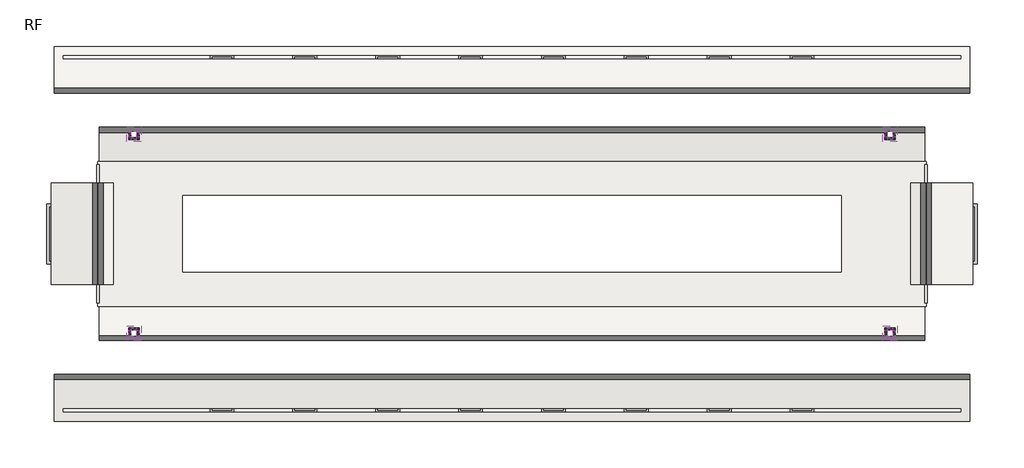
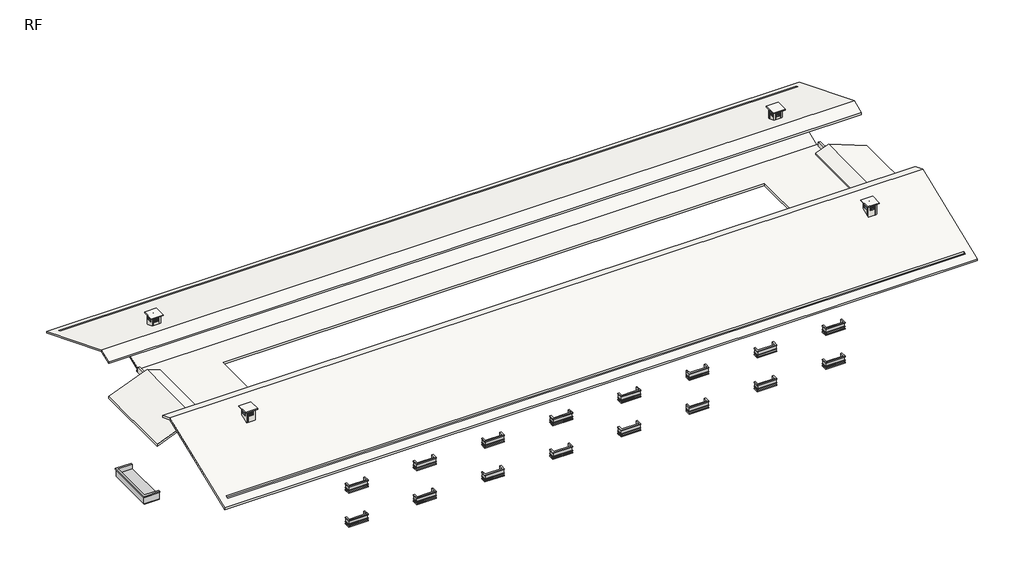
# One storey, incomplete: 34 proxies, 18 walls, 16 windows, 7 roofs, 4 slabs.
"""IFC4 building model written with IfcOpenShell, lengths in millimetres."""

from ifc_helpers import new_model, si_unit, frame, origin, place, context, project, spatial, polyline, outline, extrude, faceted_brep, transform, mapped, element, save
from components import generic_models_051adba6, generic_models_23763dcb, generic_models_85c76053, window_500_x_500mm_c674ac40, window_500_x_500mm_412bf19c

model = new_model("IFC4")

# Units and contexts
model_context = context("Model", 3, world=origin())
ifc_project = project(units=[si_unit("LENGTHUNIT", "METRE", prefix="MILLI")], contexts=[model_context])

# Site, building, storey
site = spatial("IfcSite", under=ifc_project)
building = spatial("IfcBuilding", under=site)
storey = spatial("IfcBuildingStorey", under=building, Name="RF", Elevation=12600.0)

# Proxies
placement = place(None, origin())
generic_models_shape = generic_models_051adba6(model_context)
element("IfcBuildingElementProxy", 1, Name="雨棚 : 雨棚", ObjectType="雨棚 : 雨棚", at=placement, inside=storey, context=model_context, shape_type="MappedRepresentation", body=[
    mapped(generic_models_shape, transform((-33.0000012, 16600.0, 4200.0), x_axis=(0.0, -1.0, 0.0), y_axis=(0.0, 0.0, 1.0), z_axis=(-1.0, 0.0, 0.0))),
])
element("IfcBuildingElementProxy", 2, Name="雨棚 : 雨棚", ObjectType="雨棚 : 雨棚", at=placement, inside=storey, context=model_context, shape_type="MappedRepresentation", body=[
    mapped(generic_models_shape, transform((86033.0000012, 16600.0, 4200.0), x_axis=(0.0, 1.0, 0.0), y_axis=(0.0, 0.0, 1.0), z_axis=(1.0, 0.0, 0.0))),
])
generic_models_2_shape = generic_models_23763dcb(model_context)
element("IfcBuildingElementProxy", 3, Name="花池 : 花池", ObjectType="花池 : 花池", at=placement, inside=storey, context=model_context, shape_type="MappedRepresentation", body=[
    mapped(generic_models_2_shape, transform((15000.0, 0.0, 4200.0), x_axis=(1.0, 0.0, 0.0), y_axis=(0.0, 0.0, 1.0), z_axis=(0.0, -1.0, 0.0))),
])
element("IfcBuildingElementProxy", 4, Name="花池 : 花池", ObjectType="花池 : 花池", at=placement, inside=storey, context=model_context, shape_type="MappedRepresentation", body=[
    mapped(generic_models_2_shape, transform((23000.0, 0.0, 4200.0), x_axis=(1.0, 0.0, 0.0), y_axis=(0.0, 0.0, 1.0), z_axis=(0.0, -1.0, 0.0))),
])
element("IfcBuildingElementProxy", 5, Name="花池 : 花池", ObjectType="花池 : 花池", at=placement, inside=storey, context=model_context, shape_type="MappedRepresentation", body=[
    mapped(generic_models_2_shape, transform((31000.0, 0.0, 4200.0), x_axis=(1.0, 0.0, 0.0), y_axis=(0.0, 0.0, 1.0), z_axis=(0.0, -1.0, 0.0))),
])
element("IfcBuildingElementProxy", 6, Name="花池 : 花池", ObjectType="花池 : 花池", at=placement, inside=storey, context=model_context, shape_type="MappedRepresentation", body=[
    mapped(generic_models_2_shape, transform((39000.0, 0.0, 4200.0), x_axis=(1.0, 0.0, 0.0), y_axis=(0.0, 0.0, 1.0), z_axis=(0.0, -1.0, 0.0))),
])
element("IfcBuildingElementProxy", 7, Name="花池 : 花池", ObjectType="花池 : 花池", at=placement, inside=storey, context=model_context, shape_type="MappedRepresentation", body=[
    mapped(generic_models_2_shape, transform((47000.0, 0.0, 4200.0), x_axis=(1.0, 0.0, 0.0), y_axis=(0.0, 0.0, 1.0), z_axis=(0.0, -1.0, 0.0))),
])
element("IfcBuildingElementProxy", 8, Name="花池 : 花池", ObjectType="花池 : 花池", at=placement, inside=storey, context=model_context, shape_type="MappedRepresentation", body=[
    mapped(generic_models_2_shape, transform((55000.0, 0.0, 4200.0), x_axis=(1.0, 0.0, 0.0), y_axis=(0.0, 0.0, 1.0), z_axis=(0.0, -1.0, 0.0))),
])
element("IfcBuildingElementProxy", 9, Name="花池 : 花池", ObjectType="花池 : 花池", at=placement, inside=storey, context=model_context, shape_type="MappedRepresentation", body=[
    mapped(generic_models_2_shape, transform((63000.0, 0.0, 4200.0), x_axis=(1.0, 0.0, 0.0), y_axis=(0.0, 0.0, 1.0), z_axis=(0.0, -1.0, 0.0))),
])
element("IfcBuildingElementProxy", 10, Name="花池 : 花池", ObjectType="花池 : 花池", at=placement, inside=storey, context=model_context, shape_type="MappedRepresentation", body=[
    mapped(generic_models_2_shape, transform((71000.0, 0.0, 4200.0), x_axis=(1.0, 0.0, 0.0), y_axis=(0.0, 0.0, 1.0), z_axis=(0.0, -1.0, 0.0))),
])
element("IfcBuildingElementProxy", 11, Name="花池 : 花池", ObjectType="花池 : 花池", at=placement, inside=storey, context=model_context, shape_type="MappedRepresentation", body=[
    mapped(generic_models_2_shape, transform((15000.0, 0.0, 8400.0), x_axis=(1.0, 0.0, 0.0), y_axis=(0.0, 0.0, 1.0), z_axis=(0.0, -1.0, 0.0))),
])
element("IfcBuildingElementProxy", 12, Name="花池 : 花池", ObjectType="花池 : 花池", at=placement, inside=storey, context=model_context, shape_type="MappedRepresentation", body=[
    mapped(generic_models_2_shape, transform((23000.0, 0.0, 8400.0), x_axis=(1.0, 0.0, 0.0), y_axis=(0.0, 0.0, 1.0), z_axis=(0.0, -1.0, 0.0))),
])
element("IfcBuildingElementProxy", 13, Name="花池 : 花池", ObjectType="花池 : 花池", at=placement, inside=storey, context=model_context, shape_type="MappedRepresentation", body=[
    mapped(generic_models_2_shape, transform((31000.0, 0.0, 8400.0), x_axis=(1.0, 0.0, 0.0), y_axis=(0.0, 0.0, 1.0), z_axis=(0.0, -1.0, 0.0))),
])
element("IfcBuildingElementProxy", 14, Name="花池 : 花池", ObjectType="花池 : 花池", at=placement, inside=storey, context=model_context, shape_type="MappedRepresentation", body=[
    mapped(generic_models_2_shape, transform((39000.0, 0.0, 8400.0), x_axis=(1.0, 0.0, 0.0), y_axis=(0.0, 0.0, 1.0), z_axis=(0.0, -1.0, 0.0))),
])
element("IfcBuildingElementProxy", 15, Name="花池 : 花池", ObjectType="花池 : 花池", at=placement, inside=storey, context=model_context, shape_type="MappedRepresentation", body=[
    mapped(generic_models_2_shape, transform((47000.0, 0.0, 8400.0), x_axis=(1.0, 0.0, 0.0), y_axis=(0.0, 0.0, 1.0), z_axis=(0.0, -1.0, 0.0))),
])
element("IfcBuildingElementProxy", 16, Name="花池 : 花池", ObjectType="花池 : 花池", at=placement, inside=storey, context=model_context, shape_type="MappedRepresentation", body=[
    mapped(generic_models_2_shape, transform((55000.0, 0.0, 8400.0), x_axis=(1.0, 0.0, 0.0), y_axis=(0.0, 0.0, 1.0), z_axis=(0.0, -1.0, 0.0))),
])
element("IfcBuildingElementProxy", 17, Name="花池 : 花池", ObjectType="花池 : 花池", at=placement, inside=storey, context=model_context, shape_type="MappedRepresentation", body=[
    mapped(generic_models_2_shape, transform((63000.0, 0.0, 8400.0), x_axis=(1.0, 0.0, 0.0), y_axis=(0.0, 0.0, 1.0), z_axis=(0.0, -1.0, 0.0))),
])
element("IfcBuildingElementProxy", 18, Name="花池 : 花池", ObjectType="花池 : 花池", at=placement, inside=storey, context=model_context, shape_type="MappedRepresentation", body=[
    mapped(generic_models_2_shape, transform((71000.0, 0.0, 8400.0), x_axis=(1.0, 0.0, 0.0), y_axis=(0.0, 0.0, 1.0), z_axis=(0.0, -1.0, 0.0))),
])
generic_models_3_shape = generic_models_85c76053(model_context)
element("IfcBuildingElementProxy", 19, Name="花池 : 花池", ObjectType="花池 : 花池", at=placement, inside=storey, context=model_context, shape_type="MappedRepresentation", body=[
    mapped(generic_models_3_shape, transform((15000.0, 33200.0, 4200.0), x_axis=(1.0, 0.0, 0.0), y_axis=(0.0, 0.0, -1.0), z_axis=(0.0, 1.0, 0.0))),
])
element("IfcBuildingElementProxy", 20, Name="花池 : 花池", ObjectType="花池 : 花池", at=placement, inside=storey, context=model_context, shape_type="MappedRepresentation", body=[
    mapped(generic_models_3_shape, transform((23000.0, 33200.0, 4200.0), x_axis=(1.0, 0.0, 0.0), y_axis=(0.0, 0.0, -1.0), z_axis=(0.0, 1.0, 0.0))),
])
element("IfcBuildingElementProxy", 21, Name="花池 : 花池", ObjectType="花池 : 花池", at=placement, inside=storey, context=model_context, shape_type="MappedRepresentation", body=[
    mapped(generic_models_3_shape, transform((31000.0, 33200.0, 4200.0), x_axis=(1.0, 0.0, 0.0), y_axis=(0.0, 0.0, -1.0), z_axis=(0.0, 1.0, 0.0))),
])
element("IfcBuildingElementProxy", 22, Name="花池 : 花池", ObjectType="花池 : 花池", at=placement, inside=storey, context=model_context, shape_type="MappedRepresentation", body=[
    mapped(generic_models_3_shape, transform((39000.0, 33200.0, 4200.0), x_axis=(1.0, 0.0, 0.0), y_axis=(0.0, 0.0, -1.0), z_axis=(0.0, 1.0, 0.0))),
])
element("IfcBuildingElementProxy", 23, Name="花池 : 花池", ObjectType="花池 : 花池", at=placement, inside=storey, context=model_context, shape_type="MappedRepresentation", body=[
    mapped(generic_models_3_shape, transform((47000.0, 33200.0, 4200.0), x_axis=(1.0, 0.0, 0.0), y_axis=(0.0, 0.0, -1.0), z_axis=(0.0, 1.0, 0.0))),
])
element("IfcBuildingElementProxy", 24, Name="花池 : 花池", ObjectType="花池 : 花池", at=placement, inside=storey, context=model_context, shape_type="MappedRepresentation", body=[
    mapped(generic_models_3_shape, transform((55000.0, 33200.0, 4200.0), x_axis=(1.0, 0.0, 0.0), y_axis=(0.0, 0.0, -1.0), z_axis=(0.0, 1.0, 0.0))),
])
element("IfcBuildingElementProxy", 25, Name="花池 : 花池", ObjectType="花池 : 花池", at=placement, inside=storey, context=model_context, shape_type="MappedRepresentation", body=[
    mapped(generic_models_3_shape, transform((63000.0, 33200.0, 4200.0), x_axis=(1.0, 0.0, 0.0), y_axis=(0.0, 0.0, -1.0), z_axis=(0.0, 1.0, 0.0))),
])
element("IfcBuildingElementProxy", 26, Name="花池 : 花池", ObjectType="花池 : 花池", at=placement, inside=storey, context=model_context, shape_type="MappedRepresentation", body=[
    mapped(generic_models_3_shape, transform((71000.0, 33200.0, 4200.0), x_axis=(1.0, 0.0, 0.0), y_axis=(0.0, 0.0, -1.0), z_axis=(0.0, 1.0, 0.0))),
])
element("IfcBuildingElementProxy", 27, Name="花池 : 花池", ObjectType="花池 : 花池", at=placement, inside=storey, context=model_context, shape_type="MappedRepresentation", body=[
    mapped(generic_models_3_shape, transform((15000.0, 33200.0, 8400.0), x_axis=(1.0, 0.0, 0.0), y_axis=(0.0, 0.0, -1.0), z_axis=(0.0, 1.0, 0.0))),
])
element("IfcBuildingElementProxy", 28, Name="花池 : 花池", ObjectType="花池 : 花池", at=placement, inside=storey, context=model_context, shape_type="MappedRepresentation", body=[
    mapped(generic_models_3_shape, transform((23000.0, 33200.0, 8400.0), x_axis=(1.0, 0.0, 0.0), y_axis=(0.0, 0.0, -1.0), z_axis=(0.0, 1.0, 0.0))),
])
element("IfcBuildingElementProxy", 29, Name="花池 : 花池", ObjectType="花池 : 花池", at=placement, inside=storey, context=model_context, shape_type="MappedRepresentation", body=[
    mapped(generic_models_3_shape, transform((31000.0, 33200.0, 8400.0), x_axis=(1.0, 0.0, 0.0), y_axis=(0.0, 0.0, -1.0), z_axis=(0.0, 1.0, 0.0))),
])
element("IfcBuildingElementProxy", 30, Name="花池 : 花池", ObjectType="花池 : 花池", at=placement, inside=storey, context=model_context, shape_type="MappedRepresentation", body=[
    mapped(generic_models_3_shape, transform((39000.0, 33200.0, 8400.0), x_axis=(1.0, 0.0, 0.0), y_axis=(0.0, 0.0, -1.0), z_axis=(0.0, 1.0, 0.0))),
])
element("IfcBuildingElementProxy", 31, Name="花池 : 花池", ObjectType="花池 : 花池", at=placement, inside=storey, context=model_context, shape_type="MappedRepresentation", body=[
    mapped(generic_models_3_shape, transform((47000.0, 33200.0, 8400.0), x_axis=(1.0, 0.0, 0.0), y_axis=(0.0, 0.0, -1.0), z_axis=(0.0, 1.0, 0.0))),
])
element("IfcBuildingElementProxy", 32, Name="花池 : 花池", ObjectType="花池 : 花池", at=placement, inside=storey, context=model_context, shape_type="MappedRepresentation", body=[
    mapped(generic_models_3_shape, transform((55000.0, 33200.0, 8400.0), x_axis=(1.0, 0.0, 0.0), y_axis=(0.0, 0.0, -1.0), z_axis=(0.0, 1.0, 0.0))),
])
element("IfcBuildingElementProxy", 33, Name="花池 : 花池", ObjectType="花池 : 花池", at=placement, inside=storey, context=model_context, shape_type="MappedRepresentation", body=[
    mapped(generic_models_3_shape, transform((63000.0, 33200.0, 8400.0), x_axis=(1.0, 0.0, 0.0), y_axis=(0.0, 0.0, -1.0), z_axis=(0.0, 1.0, 0.0))),
])
element("IfcBuildingElementProxy", 34, Name="花池 : 花池", ObjectType="花池 : 花池", at=placement, inside=storey, context=model_context, shape_type="MappedRepresentation", body=[
    mapped(generic_models_3_shape, transform((71000.0, 33200.0, 8400.0), x_axis=(1.0, 0.0, 0.0), y_axis=(0.0, 0.0, -1.0), z_axis=(0.0, 1.0, 0.0))),
])

# Roofs
element("IfcRoof", 35, ObjectType="教学楼 - 坡屋顶 - 120mm", at=placement, inside=storey, context=model_context, shape_type="Brep", body=[
    faceted_brep([(-1200.0, -1500.0, 12000.0), (-1200.0, 9600.3424555, 16439.8202237), (87200.0, 9600.3424555, 16439.8202237), (87200.0, -1500.0, 12000.0), (86300.0, -300.0, 12479.9657569), (-300.0, -300.0, 12479.9657569), (-300.0, -600.0, 12359.9743177), (86300.0, -600.0, 12359.9743177), (79200.0, 7300.0, 15519.7488839), (79200.0, 6700.0, 15279.7660054), (79800.0, 6700.0, 15279.7660054), (79800.0, 7300.0, 15519.7488839), (6800.0, 7300.0, 15519.7488839), (6200.0, 7300.0, 15519.7488839), (6200.0, 6700.0, 15279.7660054), (6800.0, 6700.0, 15279.7660054), (-1200.0, 11100.0, 15840.0), (87200.0, 11100.0, 15840.0), (-1200.0, -1500.0, 12210.0193609), (87200.0, -1500.0, 12210.0193609), (87200.0, 9600.3424555, 16649.8395846), (-1200.0, 9600.3424555, 16649.8395846), (-300.0, -300.0, 12689.9851178), (86300.0, -300.0, 12689.9851178), (86300.0, -600.0, 12569.9936786), (-300.0, -600.0, 12569.9936786), (79200.0, 6700.0, 15489.7853663), (79200.0, 7300.0, 15729.7682448), (79800.0, 7300.0, 15729.7682448), (79800.0, 6700.0, 15489.7853663), (6200.0, 7300.0, 15729.7682448), (6800.0, 7300.0, 15729.7682448), (6800.0, 6700.0, 15489.7853663), (6200.0, 6700.0, 15489.7853663), (87200.0, 11100.0, 16050.0193609), (-1200.0, 11100.0, 16050.0193609)], [[[0, 1, 2, 3], [4, 5, 6, 7], [8, 9, 10, 11], [12, 13, 14, 15]], [[2, 1, 16, 17]], [[18, 19, 20, 21], [22, 23, 24, 25], [26, 27, 28, 29], [30, 31, 32, 33]], [[21, 20, 34, 35]], [[19, 18, 0, 3]], [[35, 34, 17, 16]], [[1, 0, 18, 21, 35, 16]], [[3, 2, 17, 34, 20, 19]], [[4, 23, 22, 5]], [[5, 22, 25, 6]], [[6, 25, 24, 7]], [[23, 4, 7, 24]], [[8, 27, 26, 9]], [[9, 26, 29, 10]], [[10, 29, 28, 11]], [[27, 8, 11, 28]], [[12, 31, 30, 13]], [[13, 30, 33, 14]], [[14, 33, 32, 15]], [[31, 12, 15, 32]]]),
])
element("IfcRoof", 36, ObjectType="教学楼 - 坡屋顶 - 120mm", at=placement, inside=storey, context=model_context, shape_type="Brep", body=[
    faceted_brep([(82832.9999995, 4638.6598559, 14455.28877), (82832.9999995, 9600.0, 12470.8942888), (82832.9999995, 9600.0, 12680.9136497), (82832.9999995, 4901.2027868, 14560.2984505), (3167.0000002, 9600.0, 12470.8942888), (3167.0000002, 4638.6598559, 14455.28877), (3167.0000002, 4901.2027868, 14560.2984505), (3167.0000002, 9600.0, 12680.9136497), (79200.0, 7512.7587482, 13515.7505891), (79800.0, 7512.7587482, 13515.7505891), (79800.0, 6700.0, 13840.8308955), (79200.0, 6700.0, 13840.8308955), (6200.0, 7512.7587482, 13515.7505891), (6800.0, 7512.7587482, 13515.7505891), (6800.0, 6700.0, 13840.8308955), (6200.0, 6700.0, 13840.8308955), (79800.0, 7512.7587482, 13305.7312281), (79200.0, 7512.7587482, 13305.7312281), (79200.0, 6700.0, 13630.8115346), (79800.0, 6700.0, 13630.8115346), (6800.0, 7512.7587482, 13305.7312281), (6200.0, 7512.7587482, 13305.7312281), (6200.0, 6700.0, 13630.8115346), (6800.0, 6700.0, 13630.8115346)], [[[0, 1, 2, 3]], [[4, 5, 6, 7]], [[2, 7, 6, 3], [8, 9, 10, 11], [12, 13, 14, 15]], [[1, 0, 5, 4], [16, 17, 18, 19], [20, 21, 22, 23]], [[2, 1, 4, 7]], [[0, 3, 6, 5]], [[9, 16, 19, 10]], [[16, 9, 8, 17]], [[17, 8, 11, 18]], [[13, 20, 23, 14]], [[20, 13, 12, 21]], [[21, 12, 15, 22]], [[18, 11, 10, 19]], [[14, 23, 22, 15]]]),
])
element("IfcRoof", 37, ObjectType="教学楼 - 坡屋顶 - 120mm", at=placement, inside=storey, context=model_context, shape_type="SweptSolid", body=[
    extrude(outline(polyline([(13410.0193609, 4500.0), (14009.9337532, 3000.1070174), (12210.0193609, -1500.0), (12000.0, -1500.0), (13799.9143922, 3000.1070174), (13200.0, 4500.0), (13410.0193609, 4500.0)])), frame((0.0, 11700.0, 0.0), z_axis=(0.0, 1.0, 0.0), x_axis=(0.0, 0.0, 1.0)), (0.0, 0.0, 1.0), 9800.0),
])
element("IfcRoof", 38, ObjectType="教学楼 - 坡屋顶 - 120mm", at=placement, inside=storey, context=model_context, shape_type="SweptSolid", body=[
    extrude(outline(polyline([(12210.0193609, 87500.0), (14009.9337532, 82999.8929826), (13410.0193609, 81500.0), (13200.0, 81500.0), (13799.9143922, 82999.8929826), (12000.0, 87500.0), (12210.0193609, 87500.0)])), frame((0.0, 11700.0, 0.0), z_axis=(0.0, 1.0, 0.0), x_axis=(0.0, 0.0, 1.0)), (0.0, 0.0, 1.0), 9800.0),
])
element("IfcRoof", 39, ObjectType="教学楼 – 平屋顶 – 120mm", at=placement, inside=storey, context=model_context, shape_type="Brep", body=[
    faceted_brep([(3000.0, 23600.0, 12480.0), (83000.0, 23600.0, 12480.0), (83000.0, 9600.0, 12480.0), (3000.0, 9600.0, 12480.0), (3000.0, 9917.276907, 12480.0), (3000.0, 12900.0, 12480.0), (74775.0, 12900.0, 12480.0), (74775.0, 20300.0, 12480.0), (11225.0, 20300.0, 12480.0), (11225.0, 12900.0, 12480.0), (83000.0, 23600.0, 12700.0), (3000.0, 23600.0, 12700.0), (3000.0, 23300.0, 12700.0), (3000.0, 9900.0, 12700.0), (3000.0, 9600.0, 12700.0), (83000.0, 9600.0, 12700.0), (83000.0, 9917.7769004, 12700.0), (83000.0, 23300.0, 12700.0), (74775.0, 20300.0, 12700.0), (74775.0, 12900.0, 12700.0), (11225.0, 12900.0, 12700.0), (11225.0, 20300.0, 12700.0)], [[[0, 1, 2, 3, 4, 5], [6, 7, 8, 9]], [[10, 11, 12, 13, 14, 15, 16, 17], [18, 19, 20, 21]], [[1, 0, 11, 10]], [[0, 5, 4, 3, 14, 13, 12, 11]], [[3, 2, 15, 14]], [[2, 1, 10, 17, 16, 15]], [[18, 7, 6, 19]], [[19, 6, 9, 20]], [[20, 9, 8, 21]], [[7, 18, 21, 8]]]),
])
element("IfcRoof", 40, ObjectType="教学楼 - 坡屋顶 - 120mm", at=placement, inside=storey, context=model_context, shape_type="Brep", body=[
    faceted_brep([(-1200.0, 23599.6575445, 16439.8202237), (-1200.0, 34700.0, 12000.0), (87200.0, 34700.0, 12000.0), (87200.0, 23599.6575445, 16439.8202237), (86300.0, 33500.0, 12479.9657569), (86300.0, 33800.0, 12359.9743177), (-300.0, 33800.0, 12359.9743177), (-300.0, 33500.0, 12479.9657569), (6800.0, 25900.0, 15519.7488839), (6800.0, 26500.0, 15279.7660054), (6200.0, 26500.0, 15279.7660054), (6200.0, 25900.0, 15519.7488839), (79200.0, 25900.0, 15519.7488839), (79800.0, 25900.0, 15519.7488839), (79800.0, 26500.0, 15279.7660054), (79200.0, 26500.0, 15279.7660054), (87200.0, 22100.0, 15840.0), (-1200.0, 22100.0, 15840.0), (87200.0, 34700.0, 12210.0193609), (-1200.0, 34700.0, 12210.0193609), (-1200.0, 23599.6575445, 16649.8395846), (87200.0, 23599.6575445, 16649.8395846), (86300.0, 33800.0, 12569.9936786), (86300.0, 33500.0, 12689.9851178), (-300.0, 33500.0, 12689.9851178), (-300.0, 33800.0, 12569.9936786), (6800.0, 26500.0, 15489.7853663), (6800.0, 25900.0, 15729.7682448), (6200.0, 25900.0, 15729.7682448), (6200.0, 26500.0, 15489.7853663), (79800.0, 25900.0, 15729.7682448), (79200.0, 25900.0, 15729.7682448), (79200.0, 26500.0, 15489.7853663), (79800.0, 26500.0, 15489.7853663), (-1200.0, 22100.0, 16050.0193609), (87200.0, 22100.0, 16050.0193609)], [[[0, 1, 2, 3], [4, 5, 6, 7], [8, 9, 10, 11], [12, 13, 14, 15]], [[0, 3, 16, 17]], [[18, 19, 20, 21], [22, 23, 24, 25], [26, 27, 28, 29], [30, 31, 32, 33]], [[21, 20, 34, 35]], [[19, 18, 2, 1]], [[35, 34, 17, 16]], [[1, 0, 17, 34, 20, 19]], [[3, 2, 18, 21, 35, 16]], [[4, 23, 22, 5]], [[5, 22, 25, 6]], [[6, 25, 24, 7]], [[23, 4, 7, 24]], [[8, 27, 26, 9]], [[9, 26, 29, 10]], [[10, 29, 28, 11]], [[27, 8, 11, 28]], [[12, 31, 30, 13]], [[13, 30, 33, 14]], [[14, 33, 32, 15]], [[31, 12, 15, 32]]]),
])
element("IfcRoof", 41, ObjectType="教学楼 - 坡屋顶 - 120mm", at=placement, inside=storey, context=model_context, shape_type="Brep", body=[
    faceted_brep([(3167.0000002, 28561.3401441, 14455.28877), (3167.0000002, 23600.0, 12470.8942888), (3167.0000002, 23600.0, 12680.9136497), (3167.0000002, 28298.7972132, 14560.2984505), (82832.9999995, 23600.0, 12470.8942888), (82832.9999995, 28561.3401441, 14455.28877), (82832.9999995, 28298.7972132, 14560.2984505), (82832.9999995, 23600.0, 12680.9136497), (6200.0, 26500.0, 13840.8308955), (6800.0, 26500.0, 13840.8308955), (6800.0, 25900.0, 13600.8480171), (6200.0, 25900.0, 13600.8480171), (79200.0, 25900.0, 13600.8480171), (79200.0, 26500.0, 13840.8308955), (79800.0, 26500.0, 13840.8308955), (79800.0, 25900.0, 13600.8480171), (6800.0, 26500.0, 13630.8115346), (6200.0, 26500.0, 13630.8115346), (6200.0, 25900.0, 13390.8286562), (6800.0, 25900.0, 13390.8286562), (79200.0, 26500.0, 13630.8115346), (79200.0, 25900.0, 13390.8286562), (79800.0, 25900.0, 13390.8286562), (79800.0, 26500.0, 13630.8115346)], [[[0, 1, 2, 3]], [[4, 5, 6, 7]], [[2, 7, 6, 3], [8, 9, 10, 11], [12, 13, 14, 15]], [[1, 0, 5, 4], [16, 17, 18, 19], [20, 21, 22, 23]], [[2, 1, 4, 7]], [[0, 3, 6, 5]], [[16, 9, 8, 17]], [[17, 8, 11, 18]], [[18, 11, 10, 19]], [[9, 16, 19, 10]], [[20, 13, 12, 21]], [[21, 12, 15, 22]], [[22, 15, 14, 23]], [[13, 20, 23, 14]]]),
])

# Slabs
element("IfcSlab", 42, ObjectType="教学楼 – 井道出屋面板 – 100mm", at=placement, inside=storey, context=model_context, shape_type="SweptSolid", body=[
    extrude(outline(polyline([(7200.0, 25500.0), (5800.0, 25500.0), (5800.0, 26900.0), (7200.0, 26900.0), (7200.0, 25500.0)])), frame((0.0, 0.0, 16800.0), z_axis=(0.0, 0.0, 1.0), x_axis=(1.0, 0.0, 0.0)), (0.0, 0.0, 1.0), 100.0),
])
element("IfcSlab", 43, ObjectType="教学楼 – 井道出屋面板 – 100mm", at=placement, inside=storey, context=model_context, shape_type="SweptSolid", body=[
    extrude(outline(polyline([(78800.0, 25500.0), (78800.0, 26900.0), (80200.0, 26900.0), (80200.0, 25500.0), (78800.0, 25500.0)])), frame((0.0, 0.0, 16800.0), z_axis=(0.0, 0.0, 1.0), x_axis=(1.0, 0.0, 0.0)), (0.0, 0.0, 1.0), 100.0),
])
element("IfcSlab", 44, ObjectType="教学楼 – 井道出屋面板 – 100mm", at=placement, inside=storey, context=model_context, shape_type="SweptSolid", body=[
    extrude(outline(polyline([(78800.0, 7700.0), (80200.0, 7700.0), (80200.0, 6300.0), (78800.0, 6300.0), (78800.0, 7700.0)])), frame((0.0, 0.0, 16800.0), z_axis=(0.0, 0.0, 1.0), x_axis=(1.0, 0.0, 0.0)), (0.0, 0.0, 1.0), 100.0),
])
element("IfcSlab", 45, ObjectType="教学楼 – 井道出屋面板 – 100mm", at=placement, inside=storey, context=model_context, shape_type="SweptSolid", body=[
    extrude(outline(polyline([(7200.0, 7700.0), (7200.0, 6300.0), (5800.0, 6300.0), (5800.0, 7700.0), (7200.0, 7700.0)])), frame((0.0, 0.0, 16800.0), z_axis=(0.0, 0.0, 1.0), x_axis=(1.0, 0.0, 0.0)), (0.0, 0.0, 1.0), 100.0),
])

# Walls
element("IfcWall", 46, ObjectType="教学楼 – 饰面砖外墙 – 200mm", at=placement, inside=storey, context=model_context, shape_type="Brep", body=[
    faceted_brep([(83082.9999995, 9917.7769004, 12600.0), (83082.9999995, 23300.0, 12600.0), (83082.9999995, 23300.0, 13200.0), (83082.9999995, 21500.0, 13200.0), (83082.9999995, 21500.0, 13766.673957), (83082.9999995, 11700.0, 13766.673957), (83082.9999995, 11700.0, 13200.0), (83082.9999995, 9917.7769004, 13200.0), (82832.9999995, 21500.0, 13200.0), (82832.9999995, 23300.0, 13200.0), (82832.9999995, 23300.0, 12700.0), (82832.9999995, 9917.7769004, 12700.0), (82832.9999995, 9917.7769004, 13200.0), (82832.9999995, 11700.0, 13200.0), (82832.9999995, 11700.0, 13733.1619614), (82832.9999995, 21500.0, 13733.1619614), (83000.0, 9917.7769004, 12600.0), (83000.0, 23300.0, 12600.0), (83000.0, 23300.0, 12700.0), (83000.0, 9917.7769004, 12700.0), (82999.8929826, 21500.0, 13799.9143922), (82999.8929826, 11700.0, 13799.9143922)], [[[0, 1, 2, 3, 4, 5, 6, 7]], [[8, 9, 10, 11, 12, 13, 14, 15]], [[1, 0, 16, 17]], [[2, 1, 17, 18, 10, 9]], [[0, 7, 12, 11, 19, 16]], [[2, 9, 8, 3]], [[3, 8, 15, 20, 4]], [[12, 7, 6, 13]], [[13, 6, 5, 21, 14]], [[5, 4, 20, 21]], [[15, 14, 21, 20]], [[18, 19, 11, 10]], [[19, 18, 17, 16]]]),
])
element("IfcWall", 47, ObjectType="教学楼 – 饰面砖外墙 – 200mm", at=placement, inside=storey, context=model_context, shape_type="Brep", body=[
    faceted_brep([(3167.0000005, 23300.0, 13200.0), (3167.0000005, 21500.0, 13200.0), (3167.0000005, 21500.0, 13733.1619614), (3167.0000005, 11700.0, 13733.1619614), (3167.0000005, 11700.0, 13200.0), (3167.0000005, 9900.0, 13200.0), (3167.0000005, 9900.0, 12700.0), (3167.0000005, 23300.0, 12700.0), (2917.0000005, 23300.0, 12600.0), (2917.0000005, 9900.0, 12600.0), (2917.0000005, 9900.0, 13200.0), (2917.0000005, 11700.0, 13200.0), (2917.0000005, 11700.0, 13766.673957), (2917.0000005, 21500.0, 13766.673957), (2917.0000005, 21500.0, 13200.0), (2917.0000005, 23300.0, 13200.0), (3000.0, 23300.0, 12600.0), (3000.0, 9900.0, 12600.0), (3000.0, 23300.0, 12700.0), (3000.0, 9900.0, 12700.0), (3000.1070174, 21500.0, 13799.9143922), (3000.1070174, 11700.0, 13799.9143922)], [[[0, 1, 2, 3, 4, 5, 6, 7]], [[8, 9, 10, 11, 12, 13, 14, 15]], [[9, 8, 16, 17]], [[8, 15, 0, 7, 18, 16]], [[10, 9, 17, 19, 6, 5]], [[0, 15, 14, 1]], [[10, 5, 4, 11]], [[3, 2, 20, 21]], [[1, 14, 13, 20, 2]], [[11, 4, 3, 21, 12]], [[13, 12, 21, 20]], [[19, 18, 7, 6]], [[18, 19, 17, 16]]]),
])
element("IfcWall", 48, ObjectType="教学楼 – 井道出屋面墙 – 200mm", at=placement, inside=storey, context=model_context, shape_type="Brep", body=[
    faceted_brep([(6200.0, 25700.0, 13520.8537243), (6200.0, 25900.0, 13600.8480171), (6200.0, 26500.0, 13840.8308955), (6200.0, 26700.0, 13920.8251884), (6200.0, 26700.0, 16800.0), (6200.0, 26500.0, 16800.0), (6200.0, 25900.0, 16800.0), (6200.0, 25700.0, 16800.0), (6200.0, 25950.0, 16678.0), (6200.0, 26450.0, 16678.0), (6200.0, 26450.0, 16178.0), (6200.0, 25950.0, 16178.0), (6000.0, 25700.0, 13520.8537243), (6000.0, 25700.0, 16800.0), (6000.0, 26700.0, 16800.0), (6000.0, 26700.0, 13920.8251884), (6000.0, 25950.0, 16678.0), (6000.0, 25950.0, 16178.0), (6000.0, 26450.0, 16178.0), (6000.0, 26450.0, 16678.0)], [[[0, 1, 2, 3, 4, 5, 6, 7], [8, 9, 10, 11]], [[12, 13, 14, 15], [16, 17, 18, 19]], [[4, 3, 15, 14]], [[0, 7, 13, 12]], [[3, 2, 1, 0, 12, 15]], [[7, 6, 5, 4, 14, 13]], [[17, 16, 8, 11]], [[18, 17, 11, 10]], [[19, 18, 10, 9]], [[16, 19, 9, 8]]]),
])
element("IfcWall", 49, ObjectType="教学楼 – 井道出屋面墙 – 200mm", at=placement, inside=storey, context=model_context, shape_type="Brep", body=[
    faceted_brep([(6200.0, 26500.0, 13840.8308955), (6800.0, 26500.0, 13840.8308955), (7000.0, 26500.0, 13840.8308955), (7000.0, 26500.0, 16800.0), (6800.0, 26500.0, 16800.0), (6200.0, 26500.0, 16800.0), (6250.0, 26500.0, 16678.0), (6750.0, 26500.0, 16678.0), (6750.0, 26500.0, 16178.0), (6250.0, 26500.0, 16178.0), (6200.0, 26700.0, 13920.8251884), (6200.0, 26700.0, 16800.0), (7000.0, 26700.0, 16800.0), (7000.0, 26700.0, 13920.8251884), (6250.0, 26700.0, 16678.0), (6250.0, 26700.0, 16178.0), (6750.0, 26700.0, 16178.0), (6750.0, 26700.0, 16678.0)], [[[0, 1, 2, 3, 4, 5], [6, 7, 8, 9]], [[10, 11, 12, 13], [14, 15, 16, 17]], [[0, 5, 11, 10]], [[3, 2, 13, 12]], [[2, 1, 0, 10, 13]], [[5, 4, 3, 12, 11]], [[15, 14, 6, 9]], [[16, 15, 9, 8]], [[17, 16, 8, 7]], [[14, 17, 7, 6]]]),
])
element("IfcWall", 50, ObjectType="教学楼 – 井道出屋面墙 – 200mm", at=placement, inside=storey, context=model_context, shape_type="Brep", body=[
    faceted_brep([(6800.0, 26500.0, 13840.8308955), (6800.0, 25900.0, 13600.8480171), (6800.0, 25700.0, 13520.8537243), (6800.0, 25700.0, 16800.0), (6800.0, 25900.0, 16800.0), (6800.0, 26500.0, 16800.0), (6800.0, 26450.0, 16678.0415675), (6800.0, 25950.0, 16678.0415675), (6800.0, 25950.0, 16178.0415675), (6800.0, 26450.0, 16178.0415675), (7000.0, 26500.0, 13840.8308955), (7000.0, 26500.0, 16800.0), (7000.0, 25700.0, 16800.0), (7000.0, 25700.0, 13520.8537243), (7000.0, 26450.0, 16678.0415675), (7000.0, 26450.0, 16178.0415675), (7000.0, 25950.0, 16178.0415675), (7000.0, 25950.0, 16678.0415675)], [[[0, 1, 2, 3, 4, 5], [6, 7, 8, 9]], [[10, 11, 12, 13], [14, 15, 16, 17]], [[0, 5, 11, 10]], [[3, 2, 13, 12]], [[2, 1, 0, 10, 13]], [[5, 4, 3, 12, 11]], [[15, 14, 6, 9]], [[16, 15, 9, 8]], [[17, 16, 8, 7]], [[14, 17, 7, 6]]]),
])
element("IfcWall", 51, ObjectType="教学楼 – 井道出屋面墙 – 200mm", at=placement, inside=storey, context=model_context, shape_type="Brep", body=[
    faceted_brep([(6200.0, 25900.0, 13600.8480171), (6200.0, 25900.0, 16800.0), (6800.0, 25900.0, 16800.0), (6800.0, 25900.0, 13600.8480171), (6750.0, 25900.0, 16178.0), (6750.0, 25900.0, 16678.0), (6250.0, 25900.0, 16678.0), (6250.0, 25900.0, 16178.0), (6200.0, 25700.0, 16800.0), (6200.0, 25700.0, 13520.8537243), (6800.0, 25700.0, 13520.8537243), (6800.0, 25700.0, 16800.0), (6750.0, 25700.0, 16678.0), (6750.0, 25700.0, 16178.0), (6250.0, 25700.0, 16178.0), (6250.0, 25700.0, 16678.0)], [[[0, 1, 2, 3], [4, 5, 6, 7]], [[8, 9, 10, 11], [12, 13, 14, 15]], [[1, 0, 9, 8]], [[3, 2, 11, 10]], [[0, 3, 10, 9]], [[2, 1, 8, 11]], [[12, 5, 4, 13]], [[13, 4, 7, 14]], [[5, 12, 15, 6]], [[6, 15, 14, 7]]]),
])
element("IfcWall", 52, ObjectType="教学楼 – 井道出屋面墙 – 200mm", at=placement, inside=storey, context=model_context, shape_type="Brep", body=[
    faceted_brep([(80000.0, 25700.0, 13520.8537243), (80000.0, 26700.0, 13920.8251884), (80000.0, 26700.0, 16800.0), (80000.0, 25700.0, 16800.0), (80000.0, 25950.0, 16678.0), (80000.0, 26450.0, 16678.0), (80000.0, 26450.0, 16178.0), (80000.0, 25950.0, 16178.0), (79800.0, 25700.0, 13520.8537243), (79800.0, 25700.0, 16800.0), (79800.0, 25900.0, 16800.0), (79800.0, 26500.0, 16800.0), (79800.0, 26700.0, 16800.0), (79800.0, 26700.0, 13920.8251884), (79800.0, 26500.0, 13840.8308955), (79800.0, 25900.0, 13600.8480171), (79800.0, 25950.0, 16678.0), (79800.0, 25950.0, 16178.0), (79800.0, 26450.0, 16178.0), (79800.0, 26450.0, 16678.0)], [[[0, 1, 2, 3], [4, 5, 6, 7]], [[8, 9, 10, 11, 12, 13, 14, 15], [16, 17, 18, 19]], [[2, 1, 13, 12]], [[0, 3, 9, 8]], [[3, 2, 12, 11, 10, 9]], [[17, 16, 4, 7]], [[18, 17, 7, 6]], [[19, 18, 6, 5]], [[16, 19, 5, 4]], [[1, 0, 8, 15, 14, 13]]]),
])
element("IfcWall", 53, ObjectType="教学楼 – 井道出屋面墙 – 200mm", at=placement, inside=storey, context=model_context, shape_type="Brep", body=[
    faceted_brep([(79800.0, 26700.0, 13920.8251884), (79000.0, 26700.0, 13920.8251884), (79000.0, 26700.0, 16800.0), (79800.0, 26700.0, 16800.0), (79750.0, 26700.0, 16678.0), (79250.0, 26700.0, 16678.0), (79250.0, 26700.0, 16178.0), (79750.0, 26700.0, 16178.0), (79800.0, 26500.0, 13840.8308955), (79800.0, 26500.0, 16800.0), (79200.0, 26500.0, 16800.0), (79000.0, 26500.0, 16800.0), (79000.0, 26500.0, 13840.8308955), (79200.0, 26500.0, 13840.8308955), (79750.0, 26500.0, 16678.0), (79750.0, 26500.0, 16178.0), (79250.0, 26500.0, 16178.0), (79250.0, 26500.0, 16678.0)], [[[0, 1, 2, 3], [4, 5, 6, 7]], [[8, 9, 10, 11, 12, 13], [14, 15, 16, 17]], [[0, 3, 9, 8]], [[2, 1, 12, 11]], [[3, 2, 11, 10, 9]], [[15, 14, 4, 7]], [[16, 15, 7, 6]], [[17, 16, 6, 5]], [[14, 17, 5, 4]], [[1, 0, 8, 13, 12]]]),
])
element("IfcWall", 54, ObjectType="教学楼 – 井道出屋面墙 – 200mm", at=placement, inside=storey, context=model_context, shape_type="Brep", body=[
    faceted_brep([(79000.0, 26500.0, 13840.8308955), (79000.0, 25700.0, 13520.8537243), (79000.0, 25700.0, 16800.0), (79000.0, 26500.0, 16800.0), (79000.0, 26450.0, 16678.0415675), (79000.0, 25950.0, 16678.0415675), (79000.0, 25950.0, 16178.0415675), (79000.0, 26450.0, 16178.0415675), (79200.0, 26500.0, 13840.8308955), (79200.0, 26500.0, 16800.0), (79200.0, 25900.0, 16800.0), (79200.0, 25700.0, 16800.0), (79200.0, 25700.0, 13520.8537243), (79200.0, 25900.0, 13600.8480171), (79200.0, 26450.0, 16678.0415675), (79200.0, 26450.0, 16178.0415675), (79200.0, 25950.0, 16178.0415675), (79200.0, 25950.0, 16678.0415675)], [[[0, 1, 2, 3], [4, 5, 6, 7]], [[8, 9, 10, 11, 12, 13], [14, 15, 16, 17]], [[0, 3, 9, 8]], [[2, 1, 12, 11]], [[3, 2, 11, 10, 9]], [[15, 14, 4, 7]], [[16, 15, 7, 6]], [[17, 16, 6, 5]], [[14, 17, 5, 4]], [[1, 0, 8, 13, 12]]]),
])
element("IfcWall", 55, ObjectType="教学楼 – 井道出屋面墙 – 200mm", at=placement, inside=storey, context=model_context, shape_type="Brep", body=[
    faceted_brep([(79800.0, 25700.0, 13520.8537243), (79800.0, 25700.0, 16800.0), (79200.0, 25700.0, 16800.0), (79200.0, 25700.0, 13520.8537243), (79250.0, 25700.0, 16178.0), (79250.0, 25700.0, 16678.0), (79750.0, 25700.0, 16678.0), (79750.0, 25700.0, 16178.0), (79800.0, 25900.0, 16800.0), (79800.0, 25900.0, 13600.8480171), (79200.0, 25900.0, 13600.8480171), (79200.0, 25900.0, 16800.0), (79250.0, 25900.0, 16678.0), (79250.0, 25900.0, 16178.0), (79750.0, 25900.0, 16178.0), (79750.0, 25900.0, 16678.0)], [[[0, 1, 2, 3], [4, 5, 6, 7]], [[8, 9, 10, 11], [12, 13, 14, 15]], [[1, 0, 9, 8]], [[3, 2, 11, 10]], [[0, 3, 10, 9]], [[2, 1, 8, 11]], [[12, 5, 4, 13]], [[13, 4, 7, 14]], [[5, 12, 15, 6]], [[6, 15, 14, 7]]]),
])
element("IfcWall", 56, ObjectType="教学楼 – 井道出屋面墙 – 200mm", at=placement, inside=storey, context=model_context, shape_type="Brep", body=[
    faceted_brep([(79800.0, 7500.0, 13520.8537243), (79800.0, 6700.0, 13840.8308955), (79800.0, 6500.0, 13920.8251884), (79800.0, 6500.0, 16800.0), (79800.0, 6700.0, 16800.0), (79800.0, 7300.0, 16800.0), (79800.0, 7500.0, 16800.0), (79800.0, 7250.0, 16678.0), (79800.0, 6750.0, 16678.0), (79800.0, 6750.0, 16178.0), (79800.0, 7250.0, 16178.0), (80000.0, 7500.0, 13520.8537243), (80000.0, 7500.0, 16800.0), (80000.0, 6500.0, 16800.0), (80000.0, 6500.0, 13920.8251884), (80000.0, 7250.0, 16678.0), (80000.0, 7250.0, 16178.0), (80000.0, 6750.0, 16178.0), (80000.0, 6750.0, 16678.0)], [[[0, 1, 2, 3, 4, 5, 6], [7, 8, 9, 10]], [[11, 12, 13, 14], [15, 16, 17, 18]], [[3, 2, 14, 13]], [[0, 6, 12, 11]], [[6, 5, 4, 3, 13, 12]], [[16, 15, 7, 10]], [[17, 16, 10, 9]], [[18, 17, 9, 8]], [[15, 18, 8, 7]], [[2, 1, 0, 11, 14]]]),
])
element("IfcWall", 57, ObjectType="教学楼 – 井道出屋面墙 – 200mm", at=placement, inside=storey, context=model_context, shape_type="Brep", body=[
    faceted_brep([(79800.0, 6700.0, 13840.8308955), (79200.0, 6700.0, 13840.8308955), (79000.0, 6700.0, 13840.8308955), (79000.0, 6700.0, 16800.0), (79200.0, 6700.0, 16800.0), (79800.0, 6700.0, 16800.0), (79750.0, 6700.0, 16678.0), (79250.0, 6700.0, 16678.0), (79250.0, 6700.0, 16178.0), (79750.0, 6700.0, 16178.0), (79800.0, 6500.0, 13920.8251884), (79800.0, 6500.0, 16800.0), (79000.0, 6500.0, 16800.0), (79000.0, 6500.0, 13920.8251884), (79750.0, 6500.0, 16678.0), (79750.0, 6500.0, 16178.0), (79250.0, 6500.0, 16178.0), (79250.0, 6500.0, 16678.0)], [[[0, 1, 2, 3, 4, 5], [6, 7, 8, 9]], [[10, 11, 12, 13], [14, 15, 16, 17]], [[0, 5, 11, 10]], [[3, 2, 13, 12]], [[2, 1, 0, 10, 13]], [[5, 4, 3, 12, 11]], [[15, 14, 6, 9]], [[16, 15, 9, 8]], [[17, 16, 8, 7]], [[14, 17, 7, 6]]]),
])
element("IfcWall", 58, ObjectType="教学楼 – 井道出屋面墙 – 200mm", at=placement, inside=storey, context=model_context, shape_type="Brep", body=[
    faceted_brep([(79200.0, 6700.0, 13840.8308955), (79200.0, 7500.0, 13520.8537243), (79200.0, 7500.0, 16800.0), (79200.0, 7300.0, 16800.0), (79200.0, 6700.0, 16800.0), (79200.0, 6750.0, 16678.0415675), (79200.0, 7250.0, 16678.0415675), (79200.0, 7250.0, 16178.0415675), (79200.0, 6750.0, 16178.0415675), (79000.0, 6700.0, 13840.8308955), (79000.0, 6700.0, 16800.0), (79000.0, 7500.0, 16800.0), (79000.0, 7500.0, 13520.8537243), (79000.0, 6750.0, 16678.0415675), (79000.0, 6750.0, 16178.0415675), (79000.0, 7250.0, 16178.0415675), (79000.0, 7250.0, 16678.0415675)], [[[0, 1, 2, 3, 4], [5, 6, 7, 8]], [[9, 10, 11, 12], [13, 14, 15, 16]], [[0, 4, 10, 9]], [[2, 1, 12, 11]], [[4, 3, 2, 11, 10]], [[14, 13, 5, 8]], [[15, 14, 8, 7]], [[16, 15, 7, 6]], [[13, 16, 6, 5]], [[1, 0, 9, 12]]]),
])
element("IfcWall", 59, ObjectType="教学楼 – 井道出屋面墙 – 200mm", at=placement, inside=storey, context=model_context, shape_type="Brep", body=[
    faceted_brep([(79200.0, 7300.0, 12600.0), (79800.0, 7300.0, 12600.0), (79800.0, 7300.0, 16800.0), (79200.0, 7300.0, 16800.0), (79250.0, 7300.0, 16178.0), (79250.0, 7300.0, 16678.0), (79750.0, 7300.0, 16678.0), (79750.0, 7300.0, 16178.0), (79800.0, 7500.0, 12600.0), (79200.0, 7500.0, 12600.0), (79200.0, 7500.0, 13520.8537243), (79200.0, 7500.0, 16800.0), (79800.0, 7500.0, 16800.0), (79800.0, 7500.0, 13520.8537243), (79250.0, 7500.0, 16678.0), (79250.0, 7500.0, 16178.0), (79750.0, 7500.0, 16178.0), (79750.0, 7500.0, 16678.0)], [[[0, 1, 2, 3], [4, 5, 6, 7]], [[8, 9, 10, 11, 12, 13], [14, 15, 16, 17]], [[1, 0, 9, 8]], [[2, 1, 8, 13, 12]], [[0, 3, 11, 10, 9]], [[3, 2, 12, 11]], [[14, 5, 4, 15]], [[15, 4, 7, 16]], [[5, 14, 17, 6]], [[6, 17, 16, 7]]]),
])
element("IfcWall", 60, ObjectType="教学楼 – 井道出屋面墙 – 200mm", at=placement, inside=storey, context=model_context, shape_type="Brep", body=[
    faceted_brep([(6000.0, 7500.0, 13520.8537243), (6000.0, 6500.0, 13920.8251884), (6000.0, 6500.0, 16800.0), (6000.0, 7500.0, 16800.0), (6000.0, 7250.0, 16678.0), (6000.0, 6750.0, 16678.0), (6000.0, 6750.0, 16178.0), (6000.0, 7250.0, 16178.0), (6200.0, 7500.0, 13520.8537243), (6200.0, 7500.0, 16800.0), (6200.0, 7300.0, 16800.0), (6200.0, 6700.0, 16800.0), (6200.0, 6500.0, 16800.0), (6200.0, 6500.0, 13920.8251884), (6200.0, 6700.0, 13840.8308955), (6200.0, 7250.0, 16678.0), (6200.0, 7250.0, 16178.0), (6200.0, 6750.0, 16178.0), (6200.0, 6750.0, 16678.0)], [[[0, 1, 2, 3], [4, 5, 6, 7]], [[8, 9, 10, 11, 12, 13, 14], [15, 16, 17, 18]], [[2, 1, 13, 12]], [[0, 3, 9, 8]], [[16, 15, 4, 7]], [[17, 16, 7, 6]], [[18, 17, 6, 5]], [[15, 18, 5, 4]], [[1, 0, 8, 14, 13]], [[3, 2, 12, 11, 10, 9]]]),
])
element("IfcWall", 61, ObjectType="教学楼 – 井道出屋面墙 – 200mm", at=placement, inside=storey, context=model_context, shape_type="Brep", body=[
    faceted_brep([(6200.0, 6500.0, 13920.8251884), (7000.0, 6500.0, 13920.8251884), (7000.0, 6500.0, 16800.0), (6200.0, 6500.0, 16800.0), (6250.0, 6500.0, 16678.0), (6750.0, 6500.0, 16678.0), (6750.0, 6500.0, 16178.0), (6250.0, 6500.0, 16178.0), (6200.0, 6700.0, 13840.8308955), (6200.0, 6700.0, 16800.0), (6800.0, 6700.0, 16800.0), (7000.0, 6700.0, 16800.0), (7000.0, 6700.0, 13840.8308955), (6800.0, 6700.0, 13840.8308955), (6250.0, 6700.0, 16678.0), (6250.0, 6700.0, 16178.0), (6750.0, 6700.0, 16178.0), (6750.0, 6700.0, 16678.0)], [[[0, 1, 2, 3], [4, 5, 6, 7]], [[8, 9, 10, 11, 12, 13], [14, 15, 16, 17]], [[0, 3, 9, 8]], [[2, 1, 12, 11]], [[15, 14, 4, 7]], [[16, 15, 7, 6]], [[17, 16, 6, 5]], [[14, 17, 5, 4]], [[1, 0, 8, 13, 12]], [[3, 2, 11, 10, 9]]]),
])
element("IfcWall", 62, ObjectType="教学楼 – 井道出屋面墙 – 200mm", at=placement, inside=storey, context=model_context, shape_type="Brep", body=[
    faceted_brep([(7000.0, 6700.0, 13840.8308955), (7000.0, 7500.0, 13520.8537243), (7000.0, 7500.0, 16800.0), (7000.0, 6700.0, 16800.0), (7000.0, 6750.0, 16678.0415675), (7000.0, 7250.0, 16678.0415675), (7000.0, 7250.0, 16178.0415675), (7000.0, 6750.0, 16178.0415675), (6800.0, 6700.0, 13840.8308955), (6800.0, 6700.0, 16800.0), (6800.0, 7300.0, 16800.0), (6800.0, 7500.0, 16800.0), (6800.0, 7500.0, 13520.8537243), (6800.0, 6750.0, 16678.0415675), (6800.0, 6750.0, 16178.0415675), (6800.0, 7250.0, 16178.0415675), (6800.0, 7250.0, 16678.0415675)], [[[0, 1, 2, 3], [4, 5, 6, 7]], [[8, 9, 10, 11, 12], [13, 14, 15, 16]], [[0, 3, 9, 8]], [[2, 1, 12, 11]], [[14, 13, 4, 7]], [[15, 14, 7, 6]], [[16, 15, 6, 5]], [[13, 16, 5, 4]], [[1, 0, 8, 12]], [[3, 2, 11, 10, 9]]]),
])
element("IfcWall", 63, ObjectType="教学楼 – 井道出屋面墙 – 200mm", at=placement, inside=storey, context=model_context, shape_type="Brep", body=[
    faceted_brep([(6800.0, 7500.0, 12600.0), (6200.0, 7500.0, 12600.0), (6200.0, 7500.0, 13520.8537243), (6200.0, 7500.0, 16800.0), (6800.0, 7500.0, 16800.0), (6800.0, 7500.0, 13520.8537243), (6750.0, 7500.0, 16178.0), (6750.0, 7500.0, 16678.0), (6250.0, 7500.0, 16678.0), (6250.0, 7500.0, 16178.0), (6200.0, 7300.0, 12600.0), (6800.0, 7300.0, 12600.0), (6800.0, 7300.0, 16800.0), (6200.0, 7300.0, 16800.0), (6750.0, 7300.0, 16678.0), (6750.0, 7300.0, 16178.0), (6250.0, 7300.0, 16178.0), (6250.0, 7300.0, 16678.0)], [[[0, 1, 2, 3, 4, 5], [6, 7, 8, 9]], [[10, 11, 12, 13], [14, 15, 16, 17]], [[1, 0, 11, 10]], [[3, 2, 1, 10, 13]], [[0, 5, 4, 12, 11]], [[14, 7, 6, 15]], [[15, 6, 9, 16]], [[7, 14, 17, 8]], [[8, 17, 16, 9]], [[4, 3, 13, 12]]]),
])

# Windows
window_500_x_500mm_shape = window_500_x_500mm_c674ac40(model_context)
element("IfcWindow", 64, ObjectType="百叶风口 3 - 带贴面 : 500 x 500mm", at=placement, inside=storey, context=model_context, shape_type="MappedRepresentation", body=[
    mapped(window_500_x_500mm_shape, transform((6100.0, 26200.0, 15278.0), x_axis=(0.0, -1.0, 0.0), y_axis=(1.0, 0.0, 0.0), z_axis=(0.0, 0.0, 1.0))),
])
element("IfcWindow", 65, ObjectType="百叶风口 3 - 带贴面 : 500 x 500mm", at=placement, inside=storey, context=model_context, shape_type="MappedRepresentation", body=[
    mapped(window_500_x_500mm_shape, transform((6500.0, 26600.0, 15278.0), x_axis=(-1.0, 0.0, 0.0), y_axis=(0.0, -1.0, 0.0), z_axis=(0.0, 0.0, 1.0))),
])
element("IfcWindow", 66, ObjectType="百叶风口 3 - 带贴面 : 500 x 500mm", at=placement, inside=storey, context=model_context, shape_type="MappedRepresentation", body=[
    mapped(window_500_x_500mm_shape, transform((6900.0, 26200.0, 15278.0415675), x_axis=(0.0, 1.0, 0.0), y_axis=(-1.0, 0.0, 0.0), z_axis=(0.0, 0.0, 1.0))),
])
element("IfcWindow", 67, ObjectType="百叶风口 3 - 带贴面 : 500 x 500mm", at=placement, inside=storey, context=model_context, shape_type="MappedRepresentation", body=[
    mapped(window_500_x_500mm_shape, transform((6500.0, 25800.0, 15278.0), x_axis=(1.0, 0.0, 0.0), y_axis=(0.0, 1.0, 0.0), z_axis=(0.0, 0.0, 1.0))),
])
element("IfcWindow", 68, ObjectType="百叶风口 3 - 带贴面 : 500 x 500mm", at=placement, inside=storey, context=model_context, shape_type="MappedRepresentation", body=[
    mapped(window_500_x_500mm_shape, transform((79900.0, 7000.0, 15278.0), x_axis=(0.0, 1.0, 0.0), y_axis=(-1.0, 0.0, 0.0), z_axis=(0.0, 0.0, 1.0))),
])
element("IfcWindow", 69, ObjectType="百叶风口 3 - 带贴面 : 500 x 500mm", at=placement, inside=storey, context=model_context, shape_type="MappedRepresentation", body=[
    mapped(window_500_x_500mm_shape, transform((79500.0, 6600.0, 15278.0), x_axis=(1.0, 0.0, 0.0), y_axis=(0.0, 1.0, 0.0), z_axis=(0.0, 0.0, 1.0))),
])
element("IfcWindow", 70, ObjectType="百叶风口 3 - 带贴面 : 500 x 500mm", at=placement, inside=storey, context=model_context, shape_type="MappedRepresentation", body=[
    mapped(window_500_x_500mm_shape, transform((79100.0, 7000.0, 15278.0415675), x_axis=(0.0, -1.0, 0.0), y_axis=(1.0, 0.0, 0.0), z_axis=(0.0, 0.0, 1.0))),
])
element("IfcWindow", 71, ObjectType="百叶风口 3 - 带贴面 : 500 x 500mm", at=placement, inside=storey, context=model_context, shape_type="MappedRepresentation", body=[
    mapped(window_500_x_500mm_shape, transform((79500.0, 7400.0, 15278.0), x_axis=(-1.0, 0.0, 0.0), y_axis=(0.0, -1.0, 0.0), z_axis=(0.0, 0.0, 1.0))),
])
window_500_x_500mm_2_shape = window_500_x_500mm_412bf19c(model_context)
element("IfcWindow", 72, ObjectType="百叶风口 3 - 带贴面 : 500 x 500mm", at=placement, inside=storey, context=model_context, shape_type="MappedRepresentation", body=[
    mapped(window_500_x_500mm_2_shape, transform((79900.0, 26200.0, 15278.0), x_axis=(0.0, -1.0, 0.0), y_axis=(1.0, 0.0, 0.0), z_axis=(0.0, 0.0, 1.0))),
])
element("IfcWindow", 73, ObjectType="百叶风口 3 - 带贴面 : 500 x 500mm", at=placement, inside=storey, context=model_context, shape_type="MappedRepresentation", body=[
    mapped(window_500_x_500mm_2_shape, transform((79500.0, 26600.0, 15278.0), x_axis=(1.0, 0.0, 0.0), y_axis=(0.0, 1.0, 0.0), z_axis=(0.0, 0.0, 1.0))),
])
element("IfcWindow", 74, ObjectType="百叶风口 3 - 带贴面 : 500 x 500mm", at=placement, inside=storey, context=model_context, shape_type="MappedRepresentation", body=[
    mapped(window_500_x_500mm_2_shape, transform((79100.0, 26200.0, 15278.0415675), x_axis=(0.0, 1.0, 0.0), y_axis=(-1.0, 0.0, 0.0), z_axis=(0.0, 0.0, 1.0))),
])
element("IfcWindow", 75, ObjectType="百叶风口 3 - 带贴面 : 500 x 500mm", at=placement, inside=storey, context=model_context, shape_type="MappedRepresentation", body=[
    mapped(window_500_x_500mm_2_shape, transform((79500.0, 25800.0, 15278.0), x_axis=(-1.0, 0.0, 0.0), y_axis=(0.0, -1.0, 0.0), z_axis=(0.0, 0.0, 1.0))),
])
element("IfcWindow", 76, ObjectType="百叶风口 3 - 带贴面 : 500 x 500mm", at=placement, inside=storey, context=model_context, shape_type="MappedRepresentation", body=[
    mapped(window_500_x_500mm_2_shape, transform((6100.0, 7000.0, 15278.0), x_axis=(0.0, 1.0, 0.0), y_axis=(-1.0, 0.0, 0.0), z_axis=(0.0, 0.0, 1.0))),
])
element("IfcWindow", 77, ObjectType="百叶风口 3 - 带贴面 : 500 x 500mm", at=placement, inside=storey, context=model_context, shape_type="MappedRepresentation", body=[
    mapped(window_500_x_500mm_2_shape, transform((6500.0, 6600.0, 15278.0), x_axis=(-1.0, 0.0, 0.0), y_axis=(0.0, -1.0, 0.0), z_axis=(0.0, 0.0, 1.0))),
])
element("IfcWindow", 78, ObjectType="百叶风口 3 - 带贴面 : 500 x 500mm", at=placement, inside=storey, context=model_context, shape_type="MappedRepresentation", body=[
    mapped(window_500_x_500mm_2_shape, transform((6900.0, 7000.0, 15278.0415675), x_axis=(0.0, -1.0, 0.0), y_axis=(1.0, 0.0, 0.0), z_axis=(0.0, 0.0, 1.0))),
])
element("IfcWindow", 79, ObjectType="百叶风口 3 - 带贴面 : 500 x 500mm", at=placement, inside=storey, context=model_context, shape_type="MappedRepresentation", body=[
    mapped(window_500_x_500mm_2_shape, transform((6500.0, 7400.0, 15278.0), x_axis=(1.0, 0.0, 0.0), y_axis=(0.0, 1.0, 0.0), z_axis=(0.0, 0.0, 1.0))),
])

save(model, "model.ifc")
